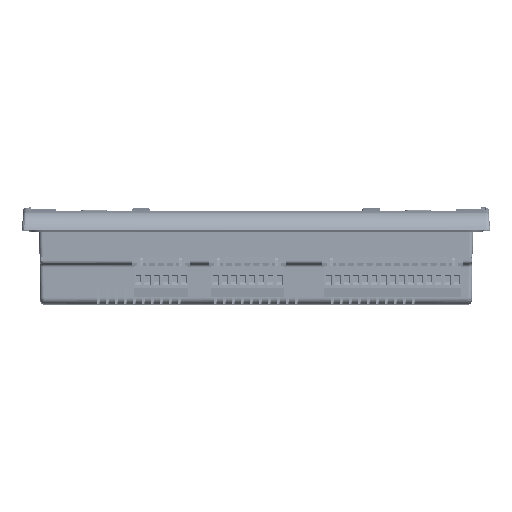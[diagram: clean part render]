
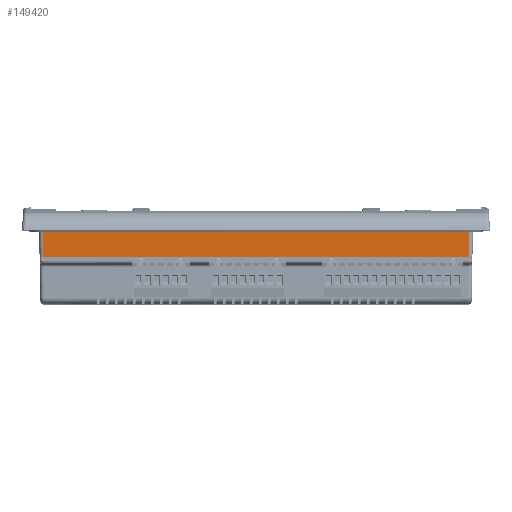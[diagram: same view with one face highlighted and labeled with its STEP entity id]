
A CAD part, top view. The second image highlights one B-rep face of the part: STEP entity #149420.
In plain terms, the highlighted planar face has unit normal (0, -0.018, 1).
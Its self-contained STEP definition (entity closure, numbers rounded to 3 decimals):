
#3390 = AXIS2_PLACEMENT_3D ( 'NONE', #109824, #234652, #259410 ) ;
#21748 = CARTESIAN_POINT ( 'NONE',  ( 248.49, 36.045, 182.228 ) ) ;
#38845 = PLANE ( 'NONE',  #3390 ) ;
#39749 = DIRECTION ( 'NONE',  ( 1., 0., 0. ) ) ;
#47083 = CARTESIAN_POINT ( 'NONE',  ( 248.242, 21.245, 181.97 ) ) ;
#55854 = EDGE_CURVE ( 'NONE', #295283, #284501, #112110, .T. ) ;
#55927 = B_SPLINE_CURVE_WITH_KNOTS ( 'NONE', 3,
 ( #240127, #266980, #291790, #21748 ),
 .UNSPECIFIED., .F., .F.,
 ( 4, 4 ),
 ( 0., 1. ),
 .UNSPECIFIED. ) ;
#56850 = CARTESIAN_POINT ( 'NONE',  ( 11.675, 26.179, 182.056 ) ) ;
#62220 = VECTOR ( 'NONE', #266628, 1000. ) ;
#69003 = EDGE_CURVE ( 'NONE', #295283, #304920, #55927, .T. ) ;
#72094 = CARTESIAN_POINT ( 'NONE',  ( 248.49, 36.045, 182.228 ) ) ;
#89440 = ORIENTED_EDGE ( 'NONE', *, *, #69003, .T. ) ;
#103337 = EDGE_CURVE ( 'NONE', #309452, #284501, #124782, .T. ) ;
#109824 = CARTESIAN_POINT ( 'NONE',  ( 11.482, 40.545, 182.306 ) ) ;
#112110 = LINE ( 'NONE', #47083, #62220 ) ;
#124782 = B_SPLINE_CURVE_WITH_KNOTS ( 'NONE', 3,
 ( #301178, #153668, #56850, #303350 ),
 .UNSPECIFIED., .F., .F.,
 ( 4, 4 ),
 ( 0., 1. ),
 .UNSPECIFIED. ) ;
#137789 = EDGE_CURVE ( 'NONE', #309452, #304920, #266206, .T. ) ;
#139156 = CARTESIAN_POINT ( 'NONE',  ( 11.758, 21.245, 181.97 ) ) ;
#149420 = ADVANCED_FACE ( 'NONE', ( #266792 ), #38845, .T. ) ;
#150776 = ORIENTED_EDGE ( 'NONE', *, *, #103337, .T. ) ;
#150979 = ORIENTED_EDGE ( 'NONE', *, *, #55854, .F. ) ;
#153668 = CARTESIAN_POINT ( 'NONE',  ( 11.593, 31.112, 182.142 ) ) ;
#185347 = VECTOR ( 'NONE', #39749, 1000. ) ;
#189312 = CARTESIAN_POINT ( 'NONE',  ( 11.482, 36.045, 182.228 ) ) ;
#197697 = CARTESIAN_POINT ( 'NONE',  ( 248.242, 21.245, 181.97 ) ) ;
#230543 = EDGE_LOOP ( 'NONE', ( #308230, #150776, #150979, #89440 ) ) ;
#234652 = DIRECTION ( 'NONE',  ( 0., -0.017, 1. ) ) ;
#240127 = CARTESIAN_POINT ( 'NONE',  ( 248.242, 21.245, 181.97 ) ) ;
#242923 = CARTESIAN_POINT ( 'NONE',  ( 11.51, 36.045, 182.228 ) ) ;
#259410 = DIRECTION ( 'NONE',  ( -1., 0., 0. ) ) ;
#266206 = LINE ( 'NONE', #189312, #185347 ) ;
#266628 = DIRECTION ( 'NONE',  ( -1., 0., 0. ) ) ;
#266792 = FACE_OUTER_BOUND ( 'NONE', #230543, .T. ) ;
#266980 = CARTESIAN_POINT ( 'NONE',  ( 248.325, 26.179, 182.056 ) ) ;
#284501 = VERTEX_POINT ( 'NONE', #139156 ) ;
#291790 = CARTESIAN_POINT ( 'NONE',  ( 248.407, 31.112, 182.142 ) ) ;
#295283 = VERTEX_POINT ( 'NONE', #197697 ) ;
#301178 = CARTESIAN_POINT ( 'NONE',  ( 11.51, 36.045, 182.228 ) ) ;
#303350 = CARTESIAN_POINT ( 'NONE',  ( 11.758, 21.245, 181.97 ) ) ;
#304920 = VERTEX_POINT ( 'NONE', #72094 ) ;
#308230 = ORIENTED_EDGE ( 'NONE', *, *, #137789, .F. ) ;
#309452 = VERTEX_POINT ( 'NONE', #242923 ) ;
